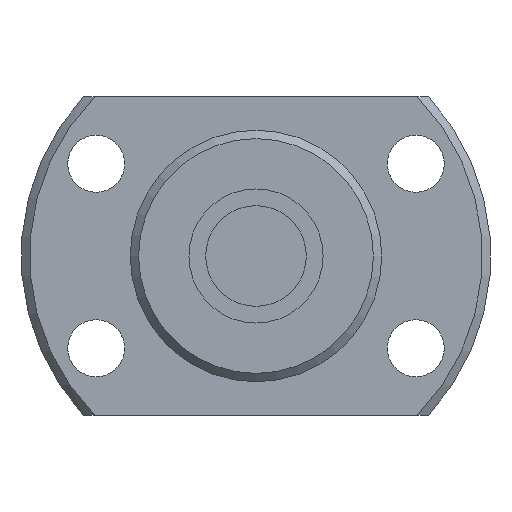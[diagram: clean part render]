
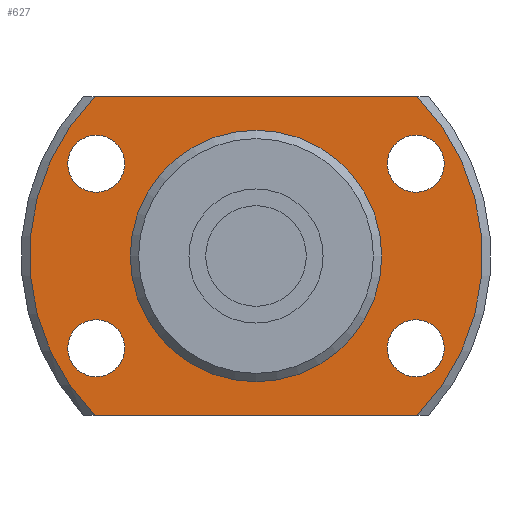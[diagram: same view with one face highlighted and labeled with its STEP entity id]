
A CAD part, left-side view. The second image highlights one B-rep face of the part: STEP entity #627.
In plain terms, the highlighted planar face has unit normal (-1, 0, 0) as drawn and (1, 0, 0) by its records, which use the part's own axes.
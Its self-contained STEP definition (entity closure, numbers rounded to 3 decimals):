
#77=LINE('',#1111,#95);
#78=LINE('',#1113,#96);
#95=VECTOR('',#920,1000.);
#96=VECTOR('',#921,1000.);
#196=ORIENTED_EDGE('',*,*,#298,.T.);
#197=ORIENTED_EDGE('',*,*,#276,.T.);
#198=ORIENTED_EDGE('',*,*,#299,.T.);
#199=ORIENTED_EDGE('',*,*,#300,.T.);
#200=ORIENTED_EDGE('',*,*,#301,.F.);
#201=ORIENTED_EDGE('',*,*,#302,.F.);
#202=ORIENTED_EDGE('',*,*,#303,.F.);
#203=ORIENTED_EDGE('',*,*,#304,.F.);
#204=ORIENTED_EDGE('',*,*,#297,.F.);
#276=EDGE_CURVE('',#339,#341,#392,.T.);
#297=EDGE_CURVE('',#360,#360,#407,.T.);
#298=EDGE_CURVE('',#361,#339,#77,.T.);
#299=EDGE_CURVE('',#341,#362,#78,.T.);
#300=EDGE_CURVE('',#362,#361,#408,.T.);
#301=EDGE_CURVE('',#363,#363,#409,.T.);
#302=EDGE_CURVE('',#364,#364,#410,.T.);
#303=EDGE_CURVE('',#365,#365,#411,.T.);
#304=EDGE_CURVE('',#366,#366,#412,.T.);
#339=VERTEX_POINT('',#1046);
#341=VERTEX_POINT('',#1053);
#360=VERTEX_POINT('',#1109);
#361=VERTEX_POINT('',#1112);
#362=VERTEX_POINT('',#1114);
#363=VERTEX_POINT('',#1117);
#364=VERTEX_POINT('',#1119);
#365=VERTEX_POINT('',#1121);
#366=VERTEX_POINT('',#1123);
#392=CIRCLE('',#712,13.5);
#407=CIRCLE('',#736,7.3);
#408=CIRCLE('',#738,13.5);
#409=CIRCLE('',#739,1.7);
#410=CIRCLE('',#740,1.7);
#411=CIRCLE('',#741,1.7);
#412=CIRCLE('',#742,1.7);
#475=EDGE_LOOP('',(#196,#197,#198,#199));
#476=EDGE_LOOP('',(#200));
#477=EDGE_LOOP('',(#201));
#478=EDGE_LOOP('',(#202));
#479=EDGE_LOOP('',(#203));
#480=EDGE_LOOP('',(#204));
#555=FACE_BOUND('',#475,.T.);
#556=FACE_BOUND('',#476,.T.);
#557=FACE_BOUND('',#477,.T.);
#558=FACE_BOUND('',#478,.T.);
#559=FACE_BOUND('',#479,.T.);
#560=FACE_BOUND('',#480,.T.);
#590=PLANE('',#737);
#627=ADVANCED_FACE('',(#555,#556,#557,#558,#559,#560),#590,.T.);
#712=AXIS2_PLACEMENT_3D('',#1054,#864,#865);
#736=AXIS2_PLACEMENT_3D('',#1108,#916,#917);
#737=AXIS2_PLACEMENT_3D('',#1110,#918,#919);
#738=AXIS2_PLACEMENT_3D('',#1115,#922,#923);
#739=AXIS2_PLACEMENT_3D('',#1116,#924,#925);
#740=AXIS2_PLACEMENT_3D('',#1118,#926,#927);
#741=AXIS2_PLACEMENT_3D('',#1120,#928,#929);
#742=AXIS2_PLACEMENT_3D('',#1122,#930,#931);
#864=DIRECTION('',(1.,0.,0.));
#865=DIRECTION('',(0.,0.,-1.));
#916=DIRECTION('',(1.,0.,0.));
#917=DIRECTION('',(0.,0.,-1.));
#918=DIRECTION('',(1.,0.,0.));
#919=DIRECTION('',(0.,0.,-1.));
#920=DIRECTION('',(0.,-1.,0.));
#921=DIRECTION('',(0.,1.,0.));
#922=DIRECTION('',(1.,0.,0.));
#923=DIRECTION('',(0.,0.,-1.));
#924=DIRECTION('',(1.,0.,0.));
#925=DIRECTION('',(0.,0.,-1.));
#926=DIRECTION('',(1.,0.,0.));
#927=DIRECTION('',(0.,0.,-1.));
#928=DIRECTION('',(1.,0.,0.));
#929=DIRECTION('',(0.,0.,-1.));
#930=DIRECTION('',(1.,0.,0.));
#931=DIRECTION('',(0.,0.,-1.));
#1046=CARTESIAN_POINT('',(4.,-9.592,9.5));
#1053=CARTESIAN_POINT('',(4.,-9.592,-9.5));
#1054=CARTESIAN_POINT('',(4.,0.,0.));
#1108=CARTESIAN_POINT('',(4.,0.,0.));
#1109=CARTESIAN_POINT('',(4.,0.,-7.3));
#1110=CARTESIAN_POINT('',(4.,7.3,0.));
#1111=CARTESIAN_POINT('',(4.,14.,9.5));
#1112=CARTESIAN_POINT('',(4.,9.592,9.5));
#1113=CARTESIAN_POINT('',(4.,-14.,-9.5));
#1114=CARTESIAN_POINT('',(4.,9.592,-9.5));
#1115=CARTESIAN_POINT('',(4.,0.,0.));
#1116=CARTESIAN_POINT('',(4.,9.526,5.5));
#1117=CARTESIAN_POINT('',(4.,9.526,3.8));
#1118=CARTESIAN_POINT('',(4.,-9.526,5.5));
#1119=CARTESIAN_POINT('',(4.,-9.526,3.8));
#1120=CARTESIAN_POINT('',(4.,-9.526,-5.5));
#1121=CARTESIAN_POINT('',(4.,-9.526,-7.2));
#1122=CARTESIAN_POINT('',(4.,9.526,-5.5));
#1123=CARTESIAN_POINT('',(4.,9.526,-7.2));
